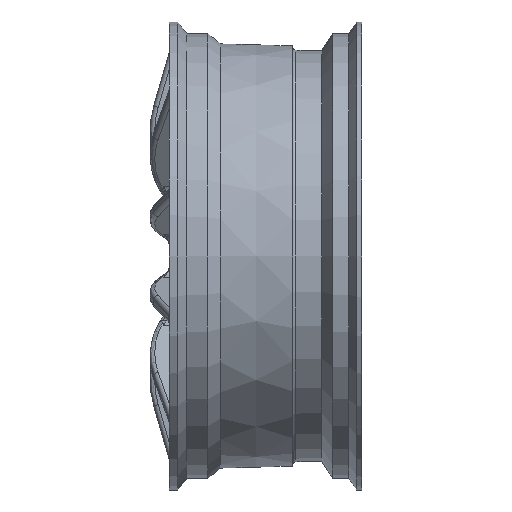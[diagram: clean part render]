
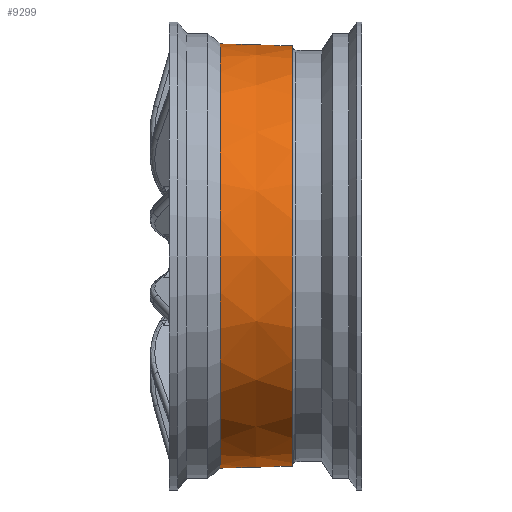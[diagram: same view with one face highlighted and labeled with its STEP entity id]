
A CAD part, front view. The second image highlights one B-rep face of the part: STEP entity #9299.
In plain terms, the highlighted conical face has half-angle 1.507 degrees and reference radius 229.166 mm.
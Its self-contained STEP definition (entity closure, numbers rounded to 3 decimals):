
#27=CONICAL_SURFACE('',#10401,229.166,1.507);
#68=FACE_BOUND('',#2355,.T.);
#1788=FACE_OUTER_BOUND('',#2354,.T.);
#2354=EDGE_LOOP('',(#8109));
#2355=EDGE_LOOP('',(#8110));
#2711=CIRCLE('',#9874,228.14);
#2875=CIRCLE('',#10400,230.192);
#3793=VERTEX_POINT('',#19126);
#4035=VERTEX_POINT('',#21718);
#4871=EDGE_CURVE('',#3793,#3793,#2711,.T.);
#5395=EDGE_CURVE('',#4035,#4035,#2875,.T.);
#8109=ORIENTED_EDGE('',*,*,#5395,.T.);
#8110=ORIENTED_EDGE('',*,*,#4871,.F.);
#9299=ADVANCED_FACE('',(#1788,#68),#27,.T.);
#9874=AXIS2_PLACEMENT_3D('',#19127,#11707,#11708);
#10400=AXIS2_PLACEMENT_3D('',#21719,#12909,#12910);
#10401=AXIS2_PLACEMENT_3D('',#21720,#12911,#12912);
#11707=DIRECTION('center_axis',(1.,0.,0.));
#11708=DIRECTION('ref_axis',(0.,0.,-1.));
#12909=DIRECTION('center_axis',(1.,0.,0.));
#12910=DIRECTION('ref_axis',(0.,0.,-1.));
#12911=DIRECTION('center_axis',(-1.,0.,0.));
#12912=DIRECTION('ref_axis',(0.,1.,0.));
#19126=CARTESIAN_POINT('',(133.659,228.14,0.));
#19127=CARTESIAN_POINT('Origin',(133.659,0.,0.));
#21718=CARTESIAN_POINT('',(55.67,230.192,0.));
#21719=CARTESIAN_POINT('Origin',(55.67,0.,0.));
#21720=CARTESIAN_POINT('Origin',(94.665,0.,0.));
